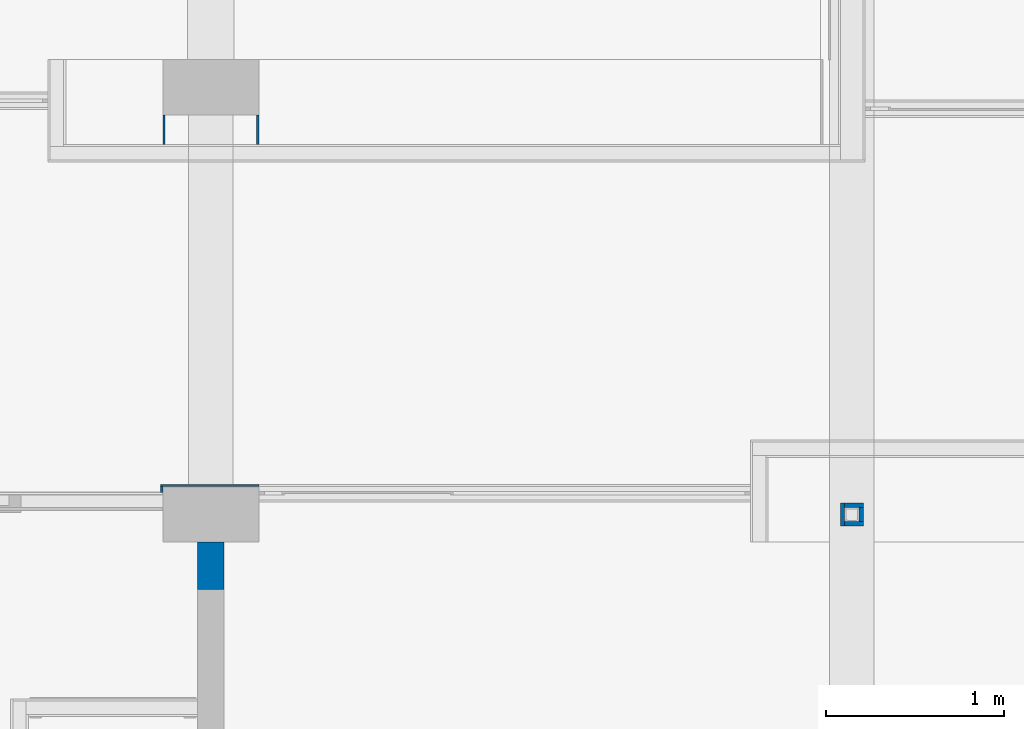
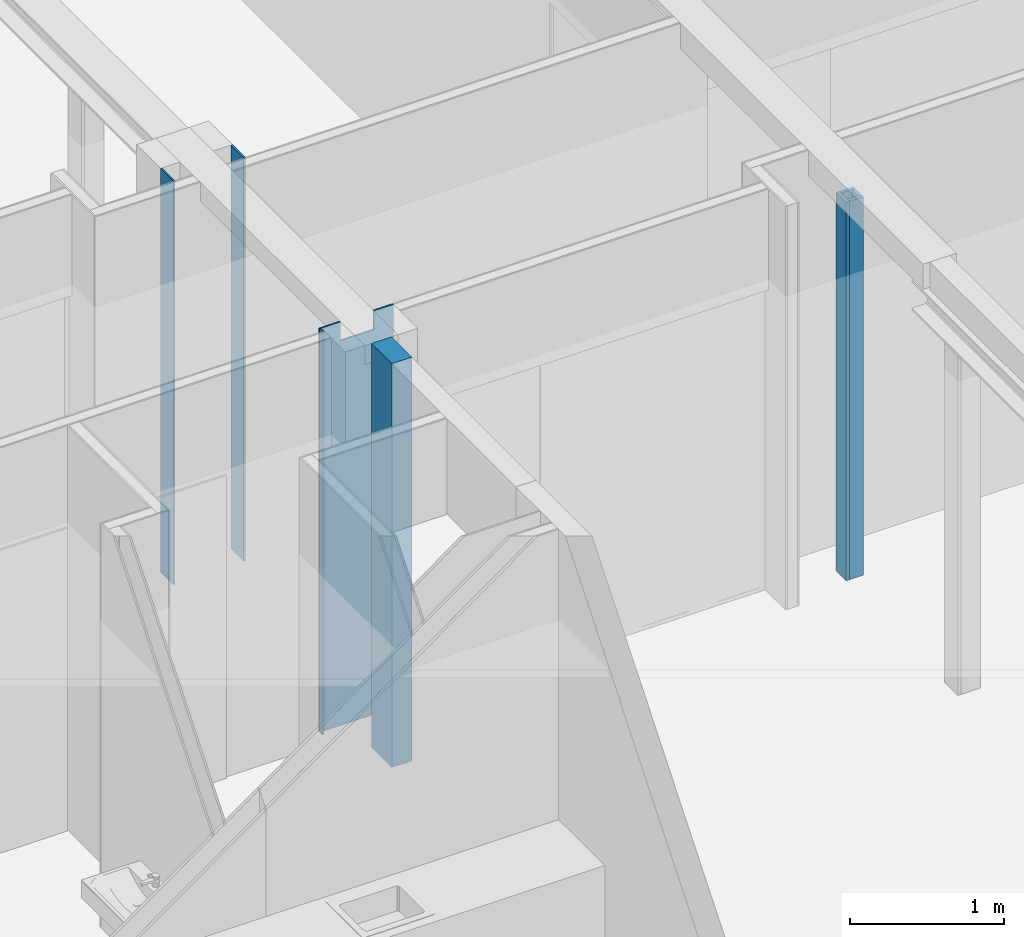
# One storey, part 60 of 117: 9 walls.
"""IFC2X3 building model written with IfcOpenShell, lengths in millimetres."""

from ifc_helpers import new_model, entity, si_unit, converted_unit, derived_unit, money_unit, direction, frame, origin_with_axes, place, context, subcontext, project, spatial, faceted_brep, material, type_object, element, save


model = new_model("IFC2X3")

# Units and contexts
model_context = context("Model", 3, precision=0.01, world=origin_with_axes(), true_north=direction((0.0, 1.0)))
body_context = subcontext(model_context, "Body", "Model", "MODEL_VIEW")
ifc_project = project(units=[si_unit("LENGTHUNIT", "METRE", prefix="MILLI"), si_unit("AREAUNIT", "SQUARE_METRE"), si_unit("VOLUMEUNIT", "CUBIC_METRE"), converted_unit("PLANEANGLEUNIT", "DEGREE", entity("IfcPlaneAngleMeasure", 0.0174532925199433), si_unit("PLANEANGLEUNIT", "RADIAN"), dimensions=[0, 0, 0, 0, 0, 0, 0]), money_unit("EUR"), converted_unit("TIMEUNIT", "Year", entity("IfcTimeMeasure", 31557600.0), si_unit("TIMEUNIT", "SECOND"), dimensions=[0, 0, 1, 0, 0, 0, 0]), si_unit("MASSUNIT", "GRAM", prefix="KILO"), si_unit("THERMODYNAMICTEMPERATUREUNIT", "DEGREE_CELSIUS"), si_unit("LUMINOUSINTENSITYUNIT", "LUMEN"), si_unit("ENERGYUNIT", "JOULE", prefix="MEGA"), derived_unit("THERMALCONDUCTANCEUNIT", [(si_unit("POWERUNIT", "WATT"), 1), (si_unit("LENGTHUNIT", "METRE"), -1), (si_unit("THERMODYNAMICTEMPERATUREUNIT", "KELVIN"), -1)]), derived_unit("SPECIFICHEATCAPACITYUNIT", [(si_unit("ENERGYUNIT", "JOULE"), 1), (si_unit("MASSUNIT", "GRAM", prefix="KILO"), -1), (si_unit("THERMODYNAMICTEMPERATUREUNIT", "KELVIN"), -1)]), derived_unit("MASSDENSITYUNIT", [(si_unit("MASSUNIT", "GRAM", prefix="KILO"), 1), (si_unit("VOLUMEUNIT", "CUBIC_METRE"), -1)])], contexts=[model_context])

# Site, building, storey
site_placement = place(None, origin_with_axes())
site = spatial("IfcSite", under=ifc_project, at=site_placement, Name="Site", CompositionType="ELEMENT")
building_placement = place(site_placement, origin_with_axes())
building = spatial("IfcBuilding", under=site, at=building_placement, Name="Naam gebouw", CompositionType="ELEMENT")
storey_placement = place(building_placement, frame((0.0, 0.0, 4150.0), z_axis=(0.0, 0.0, 1.0), x_axis=(1.0, 0.0, 0.0)))
storey = spatial("IfcBuildingStorey", under=building, at=storey_placement, Name="1e verdieping N", CompositionType="ELEMENT", Elevation=4150.0)

# Walls
ifc_material_1 = material(Name="ALG - CONSTRUCTIEF")
wall_type_1 = type_object("IfcWallType", Name="ALG - CONSTRUCTIEF 150", PredefinedType="NOTDEFINED")
wall_1_placement = place(storey_placement, frame((35999.99999999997, 17605.91242510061, -99.99999999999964), z_axis=(0.0, 0.0, 1.0), x_axis=(0.0, 1.0, 0.0)))
element("IfcWall", 1, at=wall_1_placement, inside=storey, type_object=wall_type_1, material=ifc_material_1, Name="_Wand-x", context=body_context, shape_type="Brep", body=[
    faceted_brep([(0.0, -75.00000000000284, 99.99999999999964), (264.9999999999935, -75.00000000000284, 99.99999999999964), (264.9999999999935, -75.00000000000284, 3300.0), (0.0, -75.00000000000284, 3300.0), (0.0, 75.00000000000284, 99.99999999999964), (264.9999999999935, 75.00000000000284, 99.99999999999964), (264.9999999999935, 75.00000000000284, 3300.0), (0.0, 75.00000000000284, 3300.0)], [[[0, 1, 2, 3]], [[4, 5, 1, 0]], [[2, 1, 5, 6]], [[7, 3, 2, 6]], [[0, 3, 7, 4]], [[6, 5, 4, 7]]]),
])
ifc_material_2 = material(Name="Gipsplaat")
wall_type_2 = type_object("IfcWallType", Name="Metalstud 100 enkel 100", PredefinedType="NOTDEFINED")
wall_2_placement = place(storey_placement, frame((36270.0, 20105.91242510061, 0.0), z_axis=(0.0, 0.0, 1.0), x_axis=(0.0, 1.0, 0.0)))
element("IfcWall", 2, at=wall_2_placement, inside=storey, type_object=wall_type_2, material=ifc_material_2, Name="_Wand-x", context=body_context, shape_type="Brep", body=[
    faceted_brep([(164.9999999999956, 0.0, 0.0), (164.9999999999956, 12.50000000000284, 0.0), (164.9999999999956, 12.50000000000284, 3200.0), (164.9999999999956, 0.0, 3200.0), (0.0, 0.0, 0.0), (0.0, 12.50000000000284, 0.0), (0.0, 12.50000000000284, 3200.0), (0.0, 0.0, 3200.0)], [[[0, 1, 2, 3]], [[0, 4, 5, 1]], [[1, 5, 6, 2]], [[2, 6, 7, 3]], [[4, 0, 3, 7]], [[5, 4, 7, 6]]]),
])
wall_3_placement = place(storey_placement, frame((35730.0, 20105.91242510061, 0.0), z_axis=(0.0, 0.0, 1.0), x_axis=(0.0, 1.0, 0.0)))
element("IfcWall", 3, at=wall_3_placement, inside=storey, type_object=wall_type_2, material=ifc_material_2, Name="_Wand-x", context=body_context, shape_type="Brep", body=[
    faceted_brep([(164.9999999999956, -12.50000000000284, 0.0), (164.9999999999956, 0.0, 0.0), (164.9999999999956, 0.0, 3200.0), (164.9999999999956, -12.50000000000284, 3200.0), (0.0, -12.50000000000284, 0.0), (0.0, 0.0, 0.0), (0.0, 0.0, 3200.0), (0.0, -12.50000000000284, 3200.0)], [[[0, 1, 2, 3]], [[0, 4, 5, 1]], [[1, 5, 6, 2]], [[2, 6, 7, 3]], [[4, 0, 3, 7]], [[5, 4, 7, 6]]]),
])
wall_type_3 = type_object("IfcWallType", Name="Gipsplaat 25", PredefinedType="NOTDEFINED")
wall_4_placement = place(storey_placement, frame((39535.0, 17960.91242510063, 0.0), z_axis=(0.0, 0.0, 1.0), x_axis=(0.0, 1.0, 0.0)))
element("IfcWall", 4, at=wall_4_placement, inside=storey, type_object=wall_type_3, material=ifc_material_2, Name="_Wand-x", context=body_context, shape_type="Brep", body=[
    faceted_brep([(129.9999999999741, -24.99999999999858, 3000.0), (129.9999999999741, 0.0, 3000.0), (0.0, 0.0, 3000.0), (0.0, -24.99999999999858, 3000.0), (129.9999999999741, -24.99999999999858, 0.0), (129.9999999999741, 0.0, 0.0), (0.0, 0.0, 0.0), (0.0, -24.99999999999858, 0.0)], [[[0, 1, 2, 3]], [[1, 0, 4, 5]], [[1, 5, 6, 2]], [[7, 3, 2, 6]], [[4, 0, 3, 7]], [[5, 4, 7, 6]]]),
])
wall_5_placement = place(storey_placement, frame((39535.0, 18090.9124251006, 0.0), z_axis=(0.0, 0.0, 1.0), x_axis=(1.0, 0.0, 0.0)))
element("IfcWall", 5, at=wall_5_placement, inside=storey, type_object=wall_type_3, material=ifc_material_2, Name="_Wand-x", context=body_context, shape_type="Brep", body=[
    faceted_brep([(130.0000000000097, -24.99999999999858, 3000.0), (130.0000000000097, 0.0, 3000.0), (24.99999999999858, 0.0, 3000.0), (24.99999999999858, -24.99999999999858, 3000.0), (130.0000000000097, -24.99999999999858, 0.0), (130.0000000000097, 0.0, 0.0), (24.99999999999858, 0.0, 0.0), (24.99999999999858, -24.99999999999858, 0.0)], [[[0, 1, 2, 3]], [[1, 0, 4, 5]], [[1, 5, 6, 2]], [[7, 3, 2, 6]], [[4, 0, 3, 7]], [[5, 4, 7, 6]]]),
])
wall_6_placement = place(storey_placement, frame((39665.00000000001, 17960.91242510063, 0.0), z_axis=(0.0, 0.0, 1.0), x_axis=(0.0, 1.0, 0.0)))
element("IfcWall", 6, at=wall_6_placement, inside=storey, type_object=wall_type_3, material=ifc_material_2, Name="_Wand-x", context=body_context, shape_type="Brep", body=[
    faceted_brep([(104.9999999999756, 24.99999999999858, 0.0), (104.9999999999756, 0.0, 0.0), (24.99999999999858, 0.0, 0.0), (24.99999999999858, 24.99999999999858, 0.0), (104.9999999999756, 24.99999999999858, 3000.0), (104.9999999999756, 0.0, 3000.0), (24.99999999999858, 0.0, 3000.0), (24.99999999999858, 24.99999999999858, 3000.0)], [[[0, 1, 2, 3]], [[1, 0, 4, 5]], [[1, 5, 6, 2]], [[7, 3, 2, 6]], [[4, 0, 3, 7]], [[5, 4, 7, 6]]]),
])
wall_7_placement = place(storey_placement, frame((39535.0, 17960.91242510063, 0.0), z_axis=(0.0, 0.0, 1.0), x_axis=(1.0, 0.0, 0.0)))
element("IfcWall", 7, at=wall_7_placement, inside=storey, type_object=wall_type_3, material=ifc_material_2, Name="_Wand-x", context=body_context, shape_type="Brep", body=[
    faceted_brep([(130.0000000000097, 24.99999999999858, 0.0), (130.0000000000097, 0.0, 0.0), (24.99999999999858, 0.0, 0.0), (24.99999999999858, 24.99999999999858, 0.0), (130.0000000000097, 24.99999999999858, 3000.0), (130.0000000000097, 0.0, 3000.0), (24.99999999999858, 0.0, 3000.0), (24.99999999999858, 24.99999999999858, 3000.0)], [[[0, 1, 2, 3]], [[1, 0, 4, 5]], [[1, 5, 6, 2]], [[7, 3, 2, 6]], [[4, 0, 3, 7]], [[5, 4, 7, 6]]]),
])
wall_type_4 = type_object("IfcWallType", Name="Gipsplaat 13", PredefinedType="NOTDEFINED")
wall_8_placement = place(storey_placement, frame((36269.99999999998, 18195.91242510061, 0.0), z_axis=(0.0, 0.0, 1.0), x_axis=(-1.0, 0.0, 0.0)))
element("IfcWall", 8, at=wall_8_placement, inside=storey, type_object=wall_type_4, material=ifc_material_2, Name="_Wand-x", context=body_context, shape_type="Brep", body=[
    faceted_brep([(394.9999999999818, 0.0, 3200.0), (394.9999999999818, 0.0, 3049.999999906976), (144.9999999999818, 0.0, 3049.999999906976), (144.9999999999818, 0.0, 3200.0), (0.0, 0.0, 3200.0), (0.0, 0.0, 0.0), (552.4999999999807, 0.0, 0.0), (552.4999999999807, 0.0, 3200.0), (394.9999999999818, 12.49999999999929, 3049.999999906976), (394.9999999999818, 12.49999999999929, 3200.0), (144.9999999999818, 12.49999999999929, 3049.999999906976), (144.9999999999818, 12.49999999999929, 3200.0), (0.0, 12.49999999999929, 3200.0), (0.0, 12.49999999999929, 0.0), (552.4999999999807, 12.49999999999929, 0.0), (552.4999999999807, 12.49999999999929, 3200.0)], [[[0, 1, 2, 3, 4, 5, 6, 7]], [[8, 1, 0, 9]], [[10, 2, 1, 8]], [[10, 11, 3, 2]], [[4, 3, 11, 12]], [[13, 5, 4, 12]], [[5, 13, 14, 6]], [[6, 14, 15, 7]], [[15, 9, 0, 7]], [[10, 8, 9, 15, 14, 13, 12, 11]]]),
])
wall_9_placement = place(storey_placement, frame((35717.49999999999, 18195.91242510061, 0.0), z_axis=(0.0, 0.0, 1.0), x_axis=(0.0, -1.0, 0.0)))
element("IfcWall", 9, at=wall_9_placement, inside=storey, type_object=wall_type_4, material=ifc_material_2, Name="_Wand-x", context=body_context, shape_type="Brep", body=[
    faceted_brep([(12.49999999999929, 0.0, 0.0), (12.49999999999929, 0.0, 3200.0), (12.49999999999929, 12.50000000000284, 3200.0), (12.49999999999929, 12.50000000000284, 0.0), (44.99999999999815, 0.0, 0.0), (44.99999999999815, 0.0, 3200.0), (44.99999999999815, 12.50000000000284, 3200.0), (44.99999999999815, 12.50000000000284, 0.0)], [[[0, 1, 2, 3]], [[4, 5, 1, 0]], [[5, 6, 2, 1]], [[3, 2, 6, 7]], [[3, 7, 4, 0]], [[7, 6, 5, 4]]]),
])

save(model, "model.ifc")
